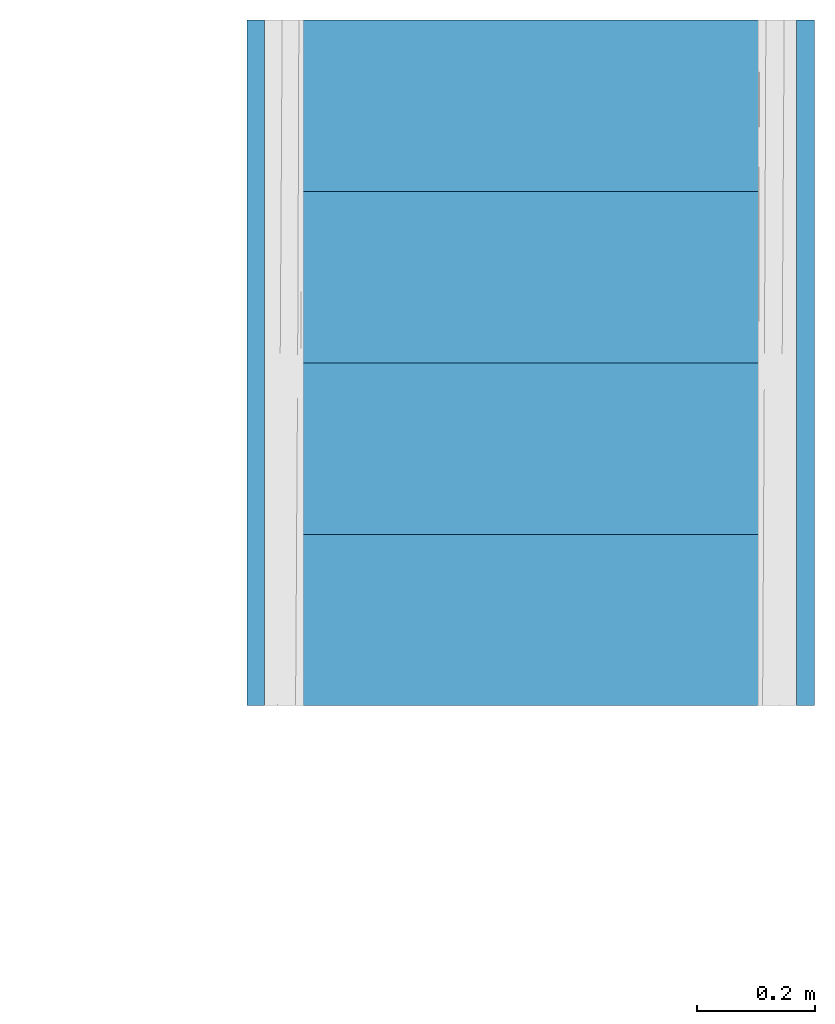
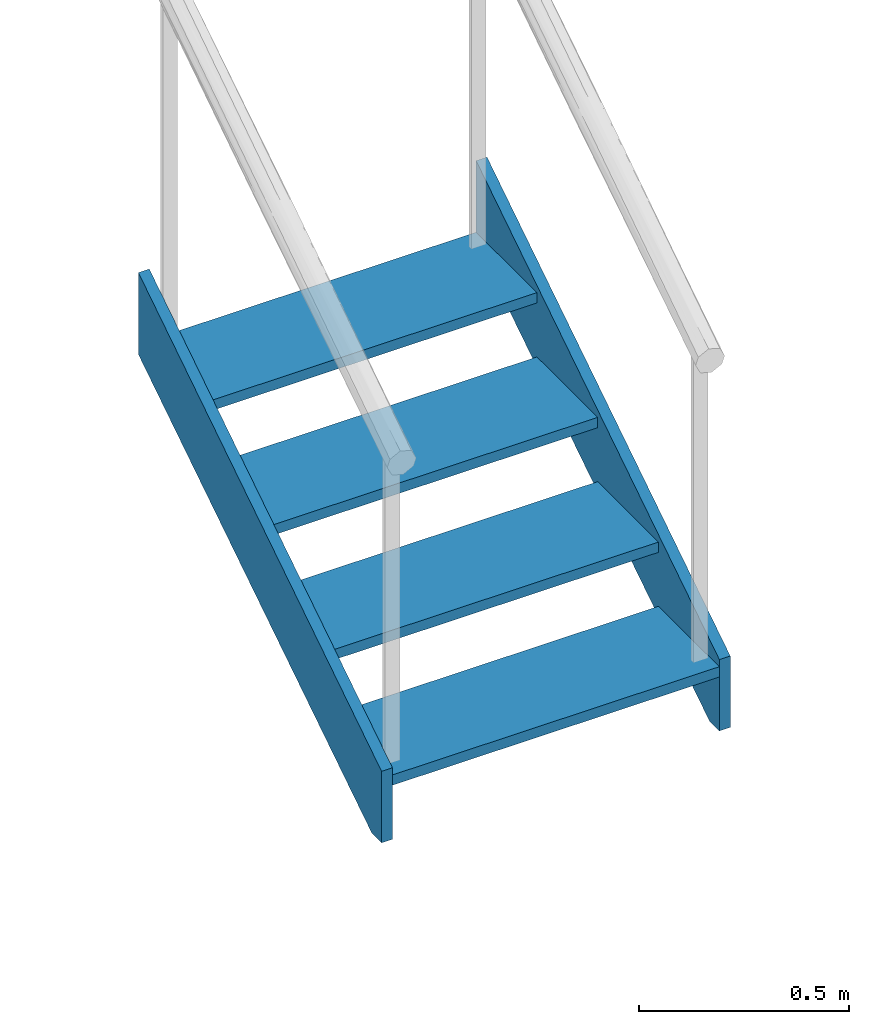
# One storey, part 1 of 4: 2 members, 1 stair flight, 1 element without a shape of its own.
"""IFC2X3 building model written with IfcOpenShell, lengths in centimetres."""

from ifc_helpers import new_model, entity, si_unit, converted_unit, derived_unit, direction, frame, frame_2d, origin, place, context, subcontext, project, spatial, polyline, rectangle, outline, extrude, material, type_object, element, aggregate, save


model = new_model("IFC2X3")

# Units and contexts
model_context = context("Model", 3, precision=0.001, world=origin(), true_north=direction((6.12303176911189e-17, 1.0)))
body_context = subcontext(model_context, "Body", "Model", "MODEL_VIEW")
ifc_project = project(units=[si_unit("LENGTHUNIT", "METRE", prefix="CENTI"), si_unit("AREAUNIT", "SQUARE_METRE"), si_unit("VOLUMEUNIT", "CUBIC_METRE"), converted_unit("PLANEANGLEUNIT", "DEGREE", entity("IfcRatioMeasure", 0.0174532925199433), si_unit("PLANEANGLEUNIT", "RADIAN"), dimensions=[0, 0, 0, 0, 0, 0, 0]), si_unit("MASSUNIT", "GRAM", prefix="KILO"), si_unit("TIMEUNIT", "SECOND"), si_unit("FREQUENCYUNIT", "HERTZ"), si_unit("THERMODYNAMICTEMPERATUREUNIT", "DEGREE_CELSIUS"), derived_unit("THERMALTRANSMITTANCEUNIT", [(si_unit("MASSUNIT", "GRAM", prefix="KILO"), 1), (si_unit("THERMODYNAMICTEMPERATUREUNIT", "KELVIN"), -1), (si_unit("TIMEUNIT", "SECOND"), -3)]), derived_unit("VOLUMETRICFLOWRATEUNIT", [(si_unit("LENGTHUNIT", "METRE"), 3), (si_unit("TIMEUNIT", "SECOND"), -1)]), si_unit("ELECTRICCURRENTUNIT", "AMPERE"), si_unit("ELECTRICVOLTAGEUNIT", "VOLT"), si_unit("POWERUNIT", "WATT"), si_unit("FORCEUNIT", "NEWTON", prefix="KILO"), si_unit("ILLUMINANCEUNIT", "LUX"), si_unit("LUMINOUSFLUXUNIT", "LUMEN"), si_unit("LUMINOUSINTENSITYUNIT", "CANDELA"), derived_unit("USERDEFINED", [(si_unit("MASSUNIT", "GRAM", prefix="KILO"), -1), (si_unit("LENGTHUNIT", "METRE"), -2), (si_unit("TIMEUNIT", "SECOND"), 3), (si_unit("LUMINOUSFLUXUNIT", "LUMEN"), 1)]), derived_unit("LINEARVELOCITYUNIT", [(si_unit("LENGTHUNIT", "METRE"), 1), (si_unit("TIMEUNIT", "SECOND"), -1)]), si_unit("PRESSUREUNIT", "PASCAL"), derived_unit("USERDEFINED", [(si_unit("LENGTHUNIT", "METRE"), -2), (si_unit("MASSUNIT", "GRAM", prefix="KILO"), 1), (si_unit("TIMEUNIT", "SECOND"), -2)])], contexts=[model_context])

# Site, building, storey
site_placement = place(None, frame((8.62739174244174, -249.285249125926, 0.0)))
site = spatial("IfcSite", under=ifc_project, at=site_placement, Name="Default", CompositionType="ELEMENT")
building_placement = place(site_placement, origin())
building = spatial("IfcBuilding", under=site, at=building_placement, CompositionType="ELEMENT")
storey_placement = place(building_placement, frame((0.0, 0.0, 724.0)))
storey = spatial("IfcBuildingStorey", under=building, at=storey_placement, Name="724", CompositionType="ELEMENT", Elevation=724.0)

# Stair, members, stair flight
stair_placement = place(storey_placement, origin())
stair = element("IfcStair", 1, at=stair_placement, inside=storey, Name="Escalier assemblé:Escalier", ObjectType="Escalier assemblé:Escalier métallique toiture", ShapeType="NOTDEFINED")
ifc_material = material(Name="Acier, 45-345")
member_type = type_object("IfcMemberType", Name="Limon à la française:Limon à la française - 30 mm", PredefinedType="STRINGER")
member_1_placement = place(stair_placement, origin())
member_1 = element("IfcMember", 2, at=member_1_placement, type_object=member_type, material=ifc_material, Name="Escalier assemblé:Escalier:1455266 Stringer 1", ObjectType="Escalier assemblé:Escalier métallique toiture", context=body_context, shape_type="SweptSolid", body=[
    extrude(outline(polyline([(-47.3297709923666, -37.6639937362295), (-42.6809160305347, -37.6639937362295), (68.670229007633, 34.1931491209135), (68.670229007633, 57.9959906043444), (-47.3297709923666, -16.8611522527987), (-47.3297709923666, -37.6639937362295)])), frame((3274.90482780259, 5484.30997913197, 37.6639937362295), z_axis=(1.0, 0.0, 0.0), x_axis=(0.0, 1.0, 0.0)), (0.0, 0.0, 1.0), 3.00000000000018),
])
member_2_placement = place(stair_placement, origin())
member_2 = element("IfcMember", 3, at=member_2_placement, type_object=member_type, material=ifc_material, Name="Escalier assemblé:Escalier:1455266 Stringer 2", ObjectType="Escalier assemblé:Escalier métallique toiture", context=body_context, shape_type="SweptSolid", body=[
    extrude(outline(polyline([(-47.3297709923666, -37.6639937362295), (-42.6809160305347, -37.6639937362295), (68.670229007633, 34.1931491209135), (68.670229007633, 57.9959906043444), (-47.3297709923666, -16.8611522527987), (-47.3297709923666, -37.6639937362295)])), frame((3367.90482780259, 5484.30997913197, 37.6639937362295), z_axis=(1.0, 0.0, 0.0), x_axis=(0.0, 1.0, 0.0)), (0.0, 0.0, 1.0), 3.00000000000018),
])
stair_flight_placement = place(stair_placement, origin())
stair_flight = element("IfcStairFlight", 4, at=stair_flight_placement, material=ifc_material, Name="Escalier assemblé:Escalier:1455266 Run 1", ObjectType="Escalier assemblé:Escalier métallique toiture", NumberOfRiser=5, NumberOfTreads=4, RiserHeight=0.613985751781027, TreadLength=0.951443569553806, context=body_context, shape_type="SweptSolid", body=[
    extrude(rectangle(XDim=28.9999999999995, YDim=90.0000000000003, at=frame_2d((4.33431068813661e-13, -2.16715534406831e-13), x_axis=(1.0, 0.0))), frame((3322.90482780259, 5451.4802081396, 15.7142857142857), z_axis=(0.0, 0.0, 1.0), x_axis=(0.0, -1.0, 0.0)), (0.0, 0.0, 1.0), 2.99999999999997),
    extrude(rectangle(XDim=28.9999999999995, YDim=90.0000000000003, at=frame_2d((4.33431068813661e-13, 2.16715534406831e-13), x_axis=(1.0, 0.0))), frame((3322.90482780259, 5480.4802081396, 34.4285714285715), z_axis=(0.0, 0.0, 1.0), x_axis=(0.0, -1.0, 0.0)), (0.0, 0.0, 1.0), 2.99999999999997),
    extrude(rectangle(XDim=28.9999999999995, YDim=90.0000000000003, at=frame_2d((4.33431068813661e-13, 2.16715534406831e-13), x_axis=(1.0, 0.0))), frame((3322.90482780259, 5509.4802081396, 53.1428571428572), z_axis=(0.0, 0.0, 1.0), x_axis=(0.0, -1.0, 0.0)), (0.0, 0.0, 1.0), 2.99999999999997),
    extrude(rectangle(XDim=28.9999999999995, YDim=90.0000000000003, at=frame_2d((4.33431068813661e-13, -2.16715534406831e-13), x_axis=(1.0, 0.0))), frame((3322.90482780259, 5538.4802081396, 71.8571428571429), z_axis=(0.0, 0.0, 1.0), x_axis=(0.0, -1.0, 0.0)), (0.0, 0.0, 1.0), 2.99999999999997),
])
aggregate(stair, [stair_flight, member_1, member_2])

save(model, "model.ifc")
